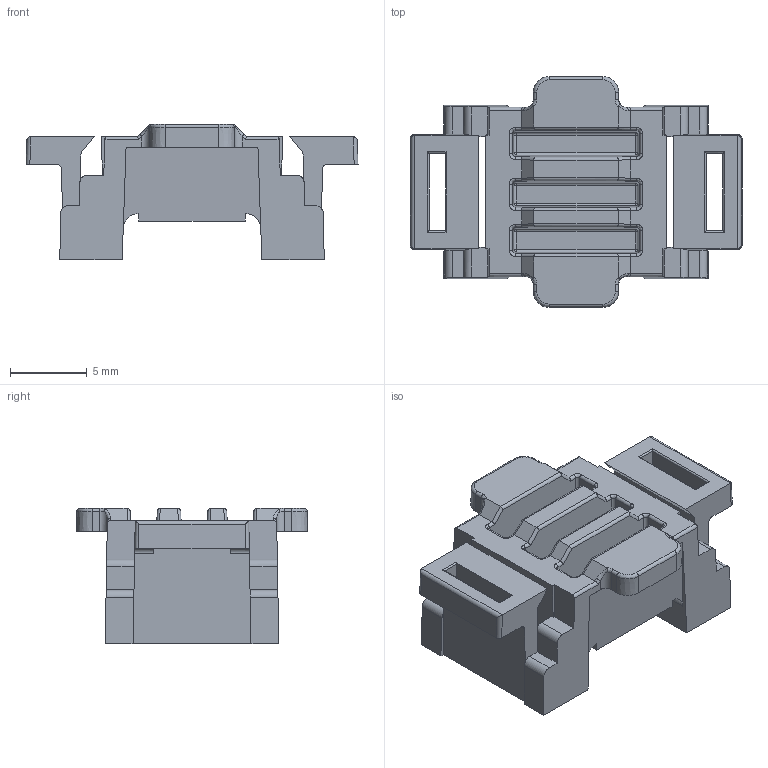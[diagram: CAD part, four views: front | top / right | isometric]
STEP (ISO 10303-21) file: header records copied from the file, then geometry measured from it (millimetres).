
FILE_DESCRIPTION (( 'STEP AP203' ), '1' );
FILE_NAME ('D007808.STEP', '2018-04-04T07:13:56', ( '' ), ( '' ), 'SwSTEP 2.0', 'SolidWorks 2014', '' );
FILE_SCHEMA (( 'CONFIG_CONTROL_DESIGN' ));
Length unit declared in the file: millimetre
Products named in the file (1): D007808
Bounding box: 21.63 x 15.05 x 8.8 mm (x, y, z)
Volume: 955.7 mm3; surface area: 1445.7 mm2
Topology: 1 solids, 3 shells, 282 faces, 739 edges, 460 vertices
Faces by surface type: plane 135, cylinder 107, bspline 36, cone 4
Entity records: 9174 total; most frequent: CARTESIAN_POINT 2726, ORIENTED_EDGE 1478, DIRECTION 1141, EDGE_CURVE 739, LINE 479, VECTOR 479, VERTEX_POINT 460, AXIS2_PLACEMENT_3D 331
